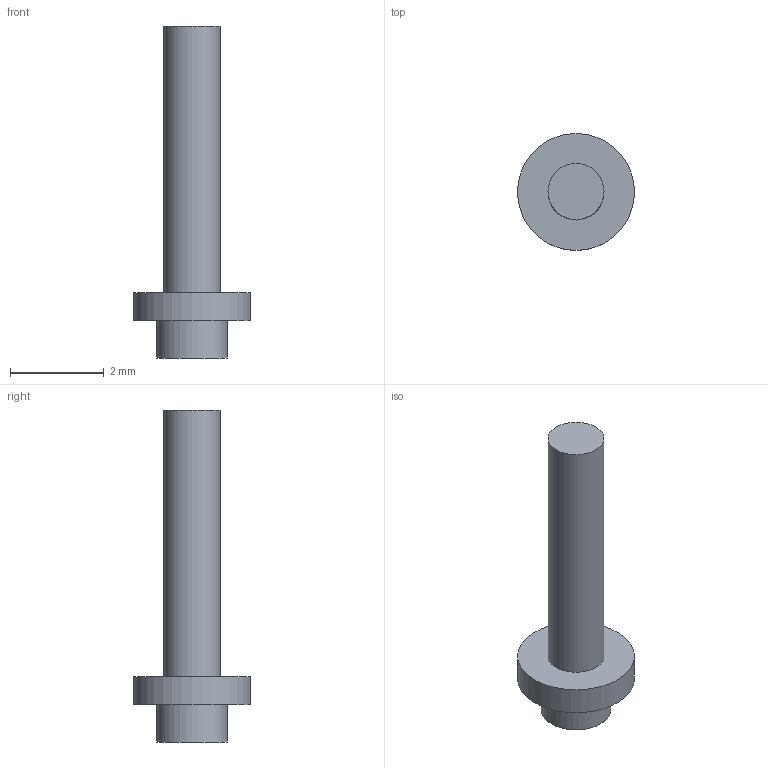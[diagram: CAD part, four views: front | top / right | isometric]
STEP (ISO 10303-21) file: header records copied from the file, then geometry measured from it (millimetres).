
FILE_DESCRIPTION(('Open CASCADE Model'),'2;1');
FILE_NAME('Open CASCADE Shape Model','2026-11-11T16:54:55',('Author'),( 'Open CASCADE'),'Open CASCADE STEP processor 7.9','Open CASCADE 7.9' ,'Unknown');
FILE_SCHEMA(('AUTOMOTIVE_DESIGN { 1 0 10303 214 1 1 1 1 }'));
Length unit declared in the file: millimetre
Products named in the file (1): Open CASCADE STEP translator 7.9 12
Bounding box: 2.5 x 2.5 x 7.1 mm (x, y, z)
Volume: 10.8 mm3; surface area: 39.8 mm2
Topology: 1 solids, 1 shells, 7 faces, 9 edges, 6 vertices
Faces by surface type: plane 4, cylinder 3
Full cylindrical faces by diameter (mm): 1.2 x1, 1.5 x1, 2.5 x1
Entity records: 282 total; most frequent: CARTESIAN_POINT 53, DIRECTION 47, ORIENTED_EDGE 18, PCURVE 18, DEFINITIONAL_REPRESENTATION 18, LINE 15, VECTOR 15, AXIS2_PLACEMENT_3D 14
